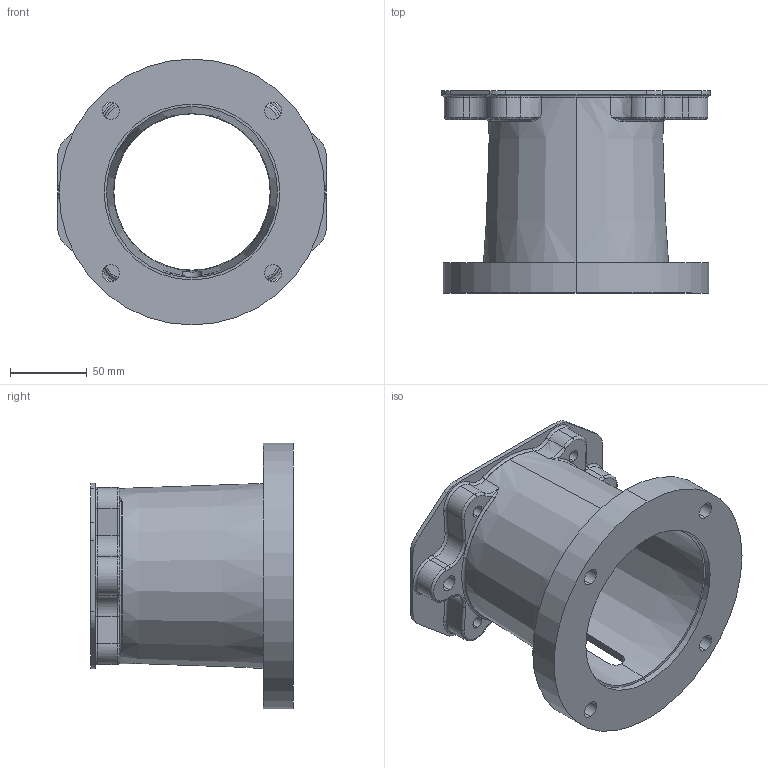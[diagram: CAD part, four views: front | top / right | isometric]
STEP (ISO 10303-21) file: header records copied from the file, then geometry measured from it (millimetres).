
FILE_DESCRIPTION (( 'STEP AP203' ), '1' );
FILE_NAME ('M05650100M.STEP', '2015-01-19T15:38:35', ( '' ), ( '' ), 'SwSTEP 2.0', 'SolidWorks 2014', '' );
FILE_SCHEMA (( 'CONFIG_CONTROL_DESIGN' ));
Length unit declared in the file: inch
Products named in the file (1): M05650100M
Bounding box: 174.75 x 131.62 x 172.97 mm (x, y, z)
Volume: 533977.9 mm3; surface area: 146971.1 mm2
Topology: 1 solids, 1 shells, 153 faces, 390 edges, 236 vertices
Faces by surface type: cylinder 64, torus 44, plane 25, bspline 16, cone 4
Entity records: 5859 total; most frequent: CARTESIAN_POINT 2028, DIRECTION 842, ORIENTED_EDGE 772, EDGE_CURVE 386, AXIS2_PLACEMENT_3D 362, VERTEX_POINT 236, CIRCLE 224, EDGE_LOOP 178
